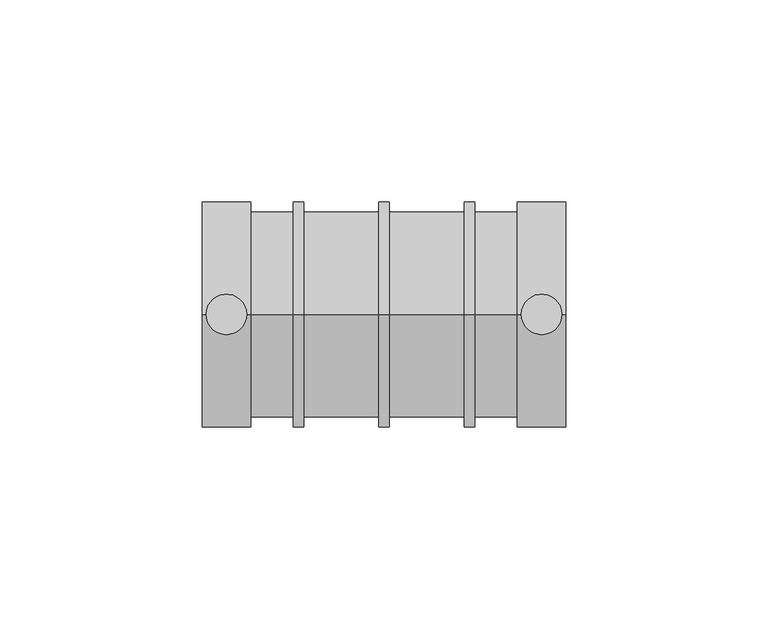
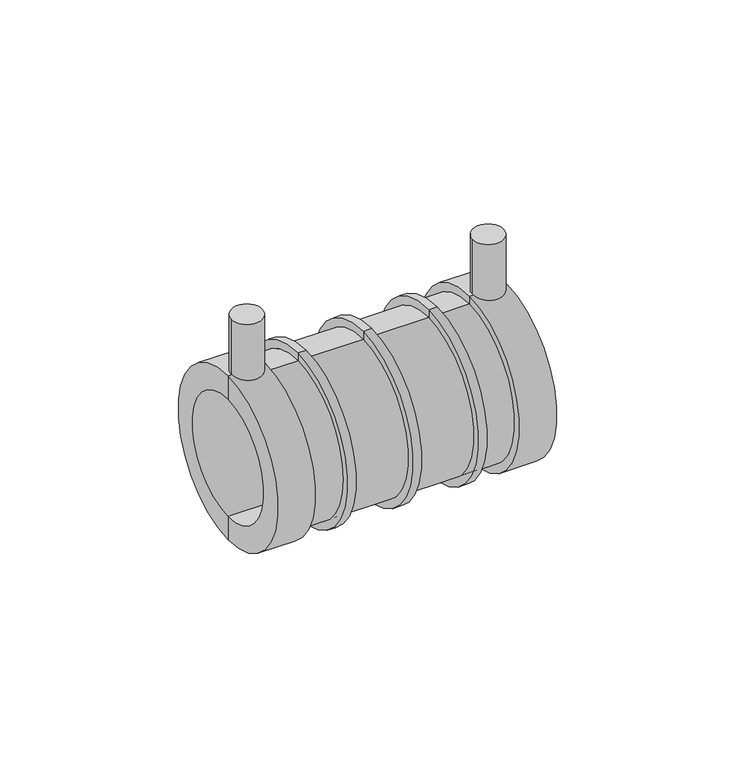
"""IFC4 building model written with IfcOpenShell, lengths in millimetres: pipe fitting geometry, Plumbing_Pipe-Fittings_Plasson_LightFit-Coupler_460104 : Plumbing_Pipe-Fittings_Plasson_LightFit-Coupler_460104."""

import ifcopenshell
import ifcopenshell.guid

model = None  # the IFC model being written
_history = None  # IfcOwnerHistory: only IFC2X3 demands one
_inside = {}  # id of a spatial element -> (the spatial element, [elements in it])
_under = {}  # id of a project, library or spatial element -> (it, [spatial elements below it])
_declared = {}  # id of a project -> (the project, [libraries it declares])
_typed = {}  # id of a type object -> (the type object, [elements of that type])
_made_of = {}  # id of a material, layer set ... -> (it, [elements and type objects made of it])


def new_model(schema):
    """Start an empty IFC model of exactly this schema.

    Asked for "IFC4X3", IfcOpenShell would pick the latest addendum, in which some entities
    have other attributes; the version numbers below select the first issue.
    IFC2X3 requires an IfcOwnerHistory on every rooted entity: one is made here for all.
    """
    global model, _history
    if schema == "IFC4X3":
        model = ifcopenshell.file(schema_version=(4, 3, 0, 0))
    else:
        model = ifcopenshell.file(schema=schema)
    _inside.clear()
    _under.clear()
    _declared.clear()
    _typed.clear()
    _made_of.clear()
    _history = None
    if model.schema == "IFC2X3":
        org = make("IfcOrganization", Name="unknown")
        user = make(
            "IfcPersonAndOrganization",
            ThePerson=make("IfcPerson", FamilyName="unknown"),
            TheOrganization=org,
        )
        app = make(
            "IfcApplication",
            ApplicationDeveloper=org,
            Version="unknown",
            ApplicationFullName="unknown",
            ApplicationIdentifier="unknown",
        )
        _history = make(
            "IfcOwnerHistory",
            OwningUser=user,
            OwningApplication=app,
            ChangeAction="ADDED",
            CreationDate=0,
        )
    return model


def make(cls, **values):
    """One entity of the class cls with the attributes given. An attribute that is None is left unset."""
    return model.create_entity(
        cls, **{name: value for name, value in values.items() if value is not None}
    )


def rooted(cls, **values):
    """An entity with a GlobalId (a new one), such as an element, a storey or a relation."""
    return make(cls, GlobalId=ifcopenshell.guid.new(), OwnerHistory=_history, **values)


def si_unit(unit_type, name, prefix=None):
    """IfcSIUnit, for example si_unit("LENGTHUNIT", "METRE", prefix="MILLI")."""
    return make("IfcSIUnit", UnitType=unit_type, Prefix=prefix, Name=name)


def assignment(units):
    """IfcUnitAssignment: the units of a project."""
    return None if units is None else make("IfcUnitAssignment", Units=units)


def point(xyz):
    """IfcCartesianPoint."""
    return None if xyz is None else make("IfcCartesianPoint", Coordinates=xyz)


def direction(xyz):
    """IfcDirection."""
    return None if xyz is None else make("IfcDirection", DirectionRatios=xyz)


def frame(location, z_axis=None, x_axis=None):
    """IfcAxis2Placement3D, a coordinate frame: its origin and axes. An axis left out is left unset."""
    return make(
        "IfcAxis2Placement3D",
        Location=point(location),
        Axis=direction(z_axis),
        RefDirection=direction(x_axis),
    )


def frame_2d(location, x_axis=None):
    """IfcAxis2Placement2D, a coordinate frame in the plane: its origin and x axis."""
    return make(
        "IfcAxis2Placement2D", Location=point(location), RefDirection=direction(x_axis)
    )


def origin():
    """The frame at (0, 0, 0) with its axes left unset."""
    return frame((0.0, 0.0, 0.0))


def place(relative_to, where):
    """IfcLocalPlacement: puts the frame where relative to a parent placement (None: the world)."""
    return make(
        "IfcLocalPlacement", PlacementRelTo=relative_to, RelativePlacement=where
    )


def context(
    kind, dimensions, precision=None, world=None, true_north=None, identifier=None
):
    """IfcGeometricRepresentationContext, for example the 3D "Model" context."""
    return make(
        "IfcGeometricRepresentationContext",
        ContextIdentifier=identifier,
        ContextType=kind,
        CoordinateSpaceDimension=dimensions,
        Precision=precision,
        WorldCoordinateSystem=world,
        TrueNorth=true_north,
    )


def project(units=None, contexts=None):
    """IfcProject with its units and contexts."""
    return rooted(
        "IfcProject",
        Name="project",
        RepresentationContexts=contexts,
        UnitsInContext=assignment(units),
    )


def spatial(cls, under=None, at=None, **own):
    """A site, building, storey or space (cls), placed at a placement, below another one or the project."""
    s = rooted(cls, ObjectPlacement=at, **own)
    if under is not None:
        _under.setdefault(under.id(), (under, []))[1].append(s)
    return s


def polyline(points):
    """IfcPolyline through the points."""
    return make("IfcPolyline", Points=[point(p) for p in points])


def circle_curve(where, radius):
    """IfcCircle in the frame where."""
    return make("IfcCircle", Position=where, Radius=radius)


def trimmed(basis, trim1, trim2, sense, master):
    """IfcTrimmedCurve: the piece of a basis curve between two trims."""
    return make(
        "IfcTrimmedCurve",
        BasisCurve=basis,
        Trim1=trim1,
        Trim2=trim2,
        SenseAgreement=sense,
        MasterRepresentation=master,
    )


def segment(curve, same_sense, transition):
    """IfcCompositeCurveSegment."""
    return make(
        "IfcCompositeCurveSegment",
        Transition=transition,
        SameSense=same_sense,
        ParentCurve=curve,
    )


def composite_curve(segments, self_intersect=None):
    """IfcCompositeCurve: segments joined end to end."""
    return make("IfcCompositeCurve", Segments=segments, SelfIntersect=self_intersect)


def outline(outer, holes=None, kind="AREA"):
    """IfcArbitraryClosedProfileDef: a profile drawn as a closed curve; with holes, ...WithVoids."""
    if holes is None:
        return make("IfcArbitraryClosedProfileDef", ProfileType=kind, OuterCurve=outer)
    return make(
        "IfcArbitraryProfileDefWithVoids",
        ProfileType=kind,
        OuterCurve=outer,
        InnerCurves=holes,
    )


def extrude(swept, where, along, depth):
    """IfcExtrudedAreaSolid: the profile swept, set in the frame where, extruded along a direction by depth."""
    return make(
        "IfcExtrudedAreaSolid",
        SweptArea=swept,
        Position=where,
        ExtrudedDirection=direction(along),
        Depth=depth,
    )


def shape(context_of_items, identifier, shape_type, items):
    """IfcShapeRepresentation: the items that make up one representation, for example the "Body"."""
    return make(
        "IfcShapeRepresentation",
        ContextOfItems=context_of_items,
        RepresentationIdentifier=identifier,
        RepresentationType=shape_type,
        Items=items,
    )


def source(mapping_origin, context_of_items, identifier, shape_type, items):
    """IfcRepresentationMap: a shape defined once, which mapped items show again and again."""
    return make(
        "IfcRepresentationMap",
        MappingOrigin=mapping_origin,
        MappedRepresentation=shape(context_of_items, identifier, shape_type, items),
    )


def transform(
    local_origin,
    x_axis=None,
    y_axis=None,
    z_axis=None,
    scale=None,
    scale2=None,
    scale3=None,
    uniform=True,
):
    """IfcCartesianTransformationOperator3D, or its non-uniform kind. x_axis, y_axis, z_axis: its Axis1, 2, 3."""
    if uniform:
        return make(
            "IfcCartesianTransformationOperator3D",
            Axis1=direction(x_axis),
            Axis2=direction(y_axis),
            LocalOrigin=point(local_origin),
            Scale=scale,
            Axis3=direction(z_axis),
        )
    return make(
        "IfcCartesianTransformationOperator3DnonUniform",
        Axis1=direction(x_axis),
        Axis2=direction(y_axis),
        LocalOrigin=point(local_origin),
        Scale=scale,
        Axis3=direction(z_axis),
        Scale2=scale2,
        Scale3=scale3,
    )


def mapped(mapping_source, mapping_target):
    """IfcMappedItem: shows the shape of a source again, moved by a transform."""
    return make(
        "IfcMappedItem", MappingSource=mapping_source, MappingTarget=mapping_target
    )


def made_of(thing, what):
    """Note that an element or type object is made of a material, layer set ...; save() writes the relation."""
    if what is not None:
        _made_of.setdefault(what.id(), (what, []))[1].append(thing)
    return thing


def element(
    cls,
    number,
    at=None,
    inside=None,
    cuts=None,
    type_object=None,
    material=None,
    context=None,
    identifier="Body",
    shape_type=None,
    held_by="IfcProductDefinitionShape",
    body=None,
    shapes=None,
    **own,
):
    """One element of the class cls, such as IfcWall. Its Tag is "e" and its number.

    at: its placement. inside: the storey or other place that contains it. cuts: it is an
    opening in that element (IfcRelVoidsElement). A single representation is given by context,
    identifier, shape_type and body (its items); several are given by shapes. held_by: the class
    of the entity that holds the representations. save() writes the other relations.
    """
    e = rooted(cls, Tag="e%d" % number, ObjectPlacement=at, **own)
    if body is not None:
        shapes = [shape(context, identifier, shape_type, body)]
    if shapes is not None:
        e.Representation = make(held_by, Representations=shapes)
    if inside is not None:
        _inside.setdefault(inside.id(), (inside, []))[1].append(e)
    if cuts is not None:
        rooted(
            "IfcRelVoidsElement", RelatingBuildingElement=cuts, RelatedOpeningElement=e
        )
    if type_object is not None:
        _typed.setdefault(type_object.id(), (type_object, []))[1].append(e)
    return made_of(e, material)


def aggregate(whole, parts):
    """IfcRelAggregates: a whole, such as a stair, and the parts it consists of."""
    return rooted("IfcRelAggregates", RelatingObject=whole, RelatedObjects=parts)


def save(model, path):
    """Write the relations noted so far, then the file.

    IfcRelAggregates (storeys below a building ...), IfcRelContainedInSpatialStructure (elements
    in a storey), IfcRelDefinesByType, IfcRelAssociatesMaterial and IfcRelDeclares: one each for
    every whole, place, type object, material and project.
    """
    for whole, parts in _under.values():
        aggregate(whole, parts)
    for where, things in _inside.values():
        rooted(
            "IfcRelContainedInSpatialStructure",
            RelatedElements=things,
            RelatingStructure=where,
        )
    for kind, things in _typed.values():
        rooted("IfcRelDefinesByType", RelatedObjects=things, RelatingType=kind)
    for what, things in _made_of.values():
        rooted("IfcRelAssociatesMaterial", RelatedObjects=things, RelatingMaterial=what)
    for by, libraries in _declared.values():
        rooted("IfcRelDeclares", RelatingContext=by, RelatedDefinitions=libraries)
    model.write(path)


def plane_surface(at):
    """IfcPlane: the flat surface through the origin of the frame at, square to its z axis."""
    return make("IfcPlane", Position=at)


def cylinder_surface(at, radius):
    """IfcCylindricalSurface: all points at the distance radius from the z axis of the frame at."""
    return make("IfcCylindricalSurface", Position=at, Radius=radius)


def revolved_surface(curve, axis_point, axis_direction):
    """IfcSurfaceOfRevolution: the curve turned about the line through axis_point along axis_direction."""
    return make(
        "IfcSurfaceOfRevolution",
        SweptCurve=make("IfcArbitraryOpenProfileDef", ProfileType="CURVE", Curve=curve),
        AxisPosition=make("IfcAxis1Placement", Location=point(axis_point), Axis=direction(axis_direction)),
    )


def advanced_brep(points, edges, surfaces, faces):
    """IfcAdvancedBrep: a solid bounded by faces that lie on surfaces and meet in shared edges.

    An edge is (start, end): straight between two places in points (the first is 0);
    or (start, end, curve); or (start, end, curve, False) where it runs against its curve.
    A face is (place in surfaces, loops), or (place, loops, False) where it looks against
    its surface's normal. A loop lists edges by number (the first is 1), with a minus sign
    where the edge is run from its end to its start. The first loop is the outer one.
    """
    corners = [point(p) for p in points]
    vertices = [make("IfcVertexPoint", VertexGeometry=c) for c in corners]
    made = []
    for start, end, *more in edges:
        made.append(
            make(
                "IfcEdgeCurve",
                EdgeStart=vertices[start],
                EdgeEnd=vertices[end],
                EdgeGeometry=more[0] if more else make("IfcPolyline", Points=[corners[start], corners[end]]),
                SameSense=more[1] if len(more) > 1 else True,
            )
        )
    hull = []
    for where, loops, *sense in faces:
        bounds = []
        for j, loop in enumerate(loops):
            ring = [make("IfcOrientedEdge", EdgeElement=made[abs(k) - 1], Orientation=k > 0) for k in loop]
            bounds.append(
                make(
                    "IfcFaceOuterBound" if j == 0 else "IfcFaceBound",
                    Bound=make("IfcEdgeLoop", EdgeList=ring),
                    Orientation=True,
                )
            )
        hull.append(make("IfcAdvancedFace", Bounds=bounds, FaceSurface=surfaces[where], SameSense=sense[0] if sense else True))
    return make("IfcAdvancedBrep", Outer=make("IfcClosedShell", CfsFaces=hull))


def pipe_fitting_f3134fd4(model_context):
    return source(origin(), model_context, "Body", "SolidModel", [
        advanced_brep(
        [(-2.0, 0.0, -20.0), (-2.0, 0.0, 20.0), (-45.0, 0.0, 20.0), (-45.0, 0.0, -20.0), (-2.0, 0.0, -17.0), (-2.0, 0.0, 17.0), (2.0, 0.0, -17.0), (2.0, 0.0, 17.0), (2.0, 0.0, -20.0), (2.0, 0.0, 20.0), (45.0, 0.0, -20.0), (45.0, 0.0, 20.0), (45.0, 0.0, -28.0), (45.0, 0.0, 28.0), (33.0, 0.0, -28.0), (33.0, 0.0, 28.0), (33.0, 0.0, -25.3333333), (33.0, 0.0, 25.3333333), (22.5, 0.0, -28.0), (22.5, 0.0, 28.0), (22.5, 0.0, 25.3333333), (22.5, 0.0, -25.3333333), (-33.0, 0.0, -25.3333333), (-33.0, 0.0, 25.3333333), (-22.5, 0.0, 25.3333333), (-22.5, 0.0, -25.3333333), (-33.0, 0.0, -28.0), (-33.0, 0.0, 28.0), (-45.0, 0.0, -28.0), (-45.0, 0.0, 28.0), (19.8333333, 0.0, -28.0), (19.8333333, 0.0, 28.0), (19.8333333, 0.0, -25.3333333), (19.8333333, 0.0, 25.3333333), (1.3333333, 0.0, -25.3333333), (1.3333333, 0.0, 25.3333333), (1.3333333, 0.0, -28.0), (1.3333333, 0.0, 28.0), (-1.3333333, 0.0, -28.0), (-1.3333333, 0.0, 28.0), (-1.3333333, 0.0, -25.3333333), (-1.3333333, 0.0, 25.3333333), (-19.8333333, 0.0, -25.3333333), (-19.8333333, 0.0, 25.3333333), (-19.8333333, 0.0, -28.0), (-19.8333333, 0.0, 28.0), (-22.5, 0.0, -28.0), (-22.5, 0.0, 28.0)],
        [
            (0, 1, circle_curve(frame((-2.0, 0.0, 0.0), z_axis=(1.0, 0.0, 0.0), x_axis=(0.0, 0.0, 1.0)), 20.0)),
            (1, 2),
            (2, 3, circle_curve(frame((-45.0, 0.0, 0.0), z_axis=(-1.0, 0.0, 0.0), x_axis=(0.0, 0.0, 1.0)), 20.0)),
            (3, 0),
            (1, 0, circle_curve(frame((-2.0, 0.0, 0.0), z_axis=(1.0, 0.0, 0.0), x_axis=(0.0, 0.0, 1.0)), 20.0)),
            (3, 2, circle_curve(frame((-45.0, 0.0, 0.0), z_axis=(-1.0, 0.0, 0.0), x_axis=(0.0, 0.0, 1.0)), 20.0)),
            (4, 5, circle_curve(frame((-2.0, 0.0, 0.0), z_axis=(1.0, 0.0, 0.0), x_axis=(0.0, 0.0, 1.0)), 17.0)),
            (5, 1),
            (0, 4),
            (5, 4, circle_curve(frame((-2.0, 0.0, 0.0), z_axis=(1.0, 0.0, 0.0), x_axis=(0.0, 0.0, 1.0)), 17.0)),
            (6, 7, circle_curve(frame((2.0, 0.0, 0.0), z_axis=(1.0, 0.0, 0.0), x_axis=(0.0, 0.0, 1.0)), 17.0)),
            (7, 5),
            (4, 6),
            (7, 6, circle_curve(frame((2.0, 0.0, 0.0), z_axis=(1.0, 0.0, 0.0), x_axis=(0.0, 0.0, 1.0)), 17.0)),
            (8, 9, circle_curve(frame((2.0, 0.0, 0.0), z_axis=(1.0, 0.0, 0.0), x_axis=(0.0, 0.0, 1.0)), 20.0)),
            (9, 7),
            (6, 8),
            (9, 8, circle_curve(frame((2.0, 0.0, 0.0), z_axis=(1.0, 0.0, 0.0), x_axis=(0.0, 0.0, 1.0)), 20.0)),
            (10, 11, circle_curve(frame((45.0, 0.0, 0.0), z_axis=(1.0, 0.0, 0.0), x_axis=(0.0, 0.0, 1.0)), 20.0)),
            (11, 9),
            (8, 10),
            (11, 10, circle_curve(frame((45.0, 0.0, 0.0), z_axis=(1.0, 0.0, 0.0), x_axis=(0.0, 0.0, 1.0)), 20.0)),
            (12, 13, circle_curve(frame((45.0, 0.0, 0.0), z_axis=(1.0, 0.0, 0.0), x_axis=(0.0, 0.0, 1.0)), 28.0)),
            (13, 11),
            (10, 12),
            (13, 12, circle_curve(frame((45.0, 0.0, 0.0), z_axis=(1.0, 0.0, 0.0), x_axis=(0.0, 0.0, 1.0)), 28.0)),
            (14, 15, circle_curve(frame((33.0, 0.0, 0.0), z_axis=(1.0, 0.0, 0.0), x_axis=(0.0, 0.0, 1.0)), 28.0)),
            (15, 13),
            (12, 14),
            (15, 14, circle_curve(frame((33.0, 0.0, 0.0), z_axis=(1.0, 0.0, 0.0), x_axis=(0.0, 0.0, 1.0)), 28.0)),
            (16, 17, circle_curve(frame((33.0, 0.0, 0.0), z_axis=(1.0, 0.0, 0.0), x_axis=(0.0, 0.0, 1.0)), 25.3333333)),
            (17, 15),
            (14, 16),
            (17, 16, circle_curve(frame((33.0, 0.0, 0.0), z_axis=(1.0, 0.0, 0.0), x_axis=(0.0, 0.0, 1.0)), 25.3333333)),
            (18, 19, circle_curve(frame((22.5, 0.0, 0.0), z_axis=(1.0, 0.0, 0.0), x_axis=(0.0, 0.0, 1.0)), 28.0)),
            (19, 20),
            (20, 21, circle_curve(frame((22.5, 0.0, 0.0), z_axis=(-1.0, 0.0, 0.0), x_axis=(0.0, 0.0, 1.0)), 25.3333333)),
            (21, 18),
            (19, 18, circle_curve(frame((22.5, 0.0, 0.0), z_axis=(1.0, 0.0, 0.0), x_axis=(0.0, 0.0, 1.0)), 28.0)),
            (21, 20, circle_curve(frame((22.5, 0.0, 0.0), z_axis=(-1.0, 0.0, 0.0), x_axis=(0.0, 0.0, 1.0)), 25.3333333)),
            (22, 23, circle_curve(frame((-33.0, 0.0, 0.0), z_axis=(1.0, 0.0, 0.0), x_axis=(0.0, 0.0, 1.0)), 25.3333333)),
            (23, 24),
            (24, 25, circle_curve(frame((-22.5, 0.0, 0.0), z_axis=(-1.0, 0.0, 0.0), x_axis=(0.0, 0.0, 1.0)), 25.3333333)),
            (25, 22),
            (23, 22, circle_curve(frame((-33.0, 0.0, 0.0), z_axis=(1.0, 0.0, 0.0), x_axis=(0.0, 0.0, 1.0)), 25.3333333)),
            (25, 24, circle_curve(frame((-22.5, 0.0, 0.0), z_axis=(-1.0, 0.0, 0.0), x_axis=(0.0, 0.0, 1.0)), 25.3333333)),
            (26, 27, circle_curve(frame((-33.0, 0.0, 0.0), z_axis=(1.0, 0.0, 0.0), x_axis=(0.0, 0.0, 1.0)), 28.0)),
            (27, 23),
            (22, 26),
            (27, 26, circle_curve(frame((-33.0, 0.0, 0.0), z_axis=(1.0, 0.0, 0.0), x_axis=(0.0, 0.0, 1.0)), 28.0)),
            (28, 29, circle_curve(frame((-45.0, 0.0, 0.0), z_axis=(1.0, 0.0, 0.0), x_axis=(0.0, 0.0, 1.0)), 28.0)),
            (29, 27),
            (26, 28),
            (29, 28, circle_curve(frame((-45.0, 0.0, 0.0), z_axis=(1.0, 0.0, 0.0), x_axis=(0.0, 0.0, 1.0)), 28.0)),
            (2, 29),
            (28, 3),
            (20, 17),
            (16, 21),
            (30, 31, circle_curve(frame((19.8333333, 0.0, 0.0), z_axis=(1.0, 0.0, 0.0), x_axis=(0.0, 0.0, 1.0)), 28.0)),
            (31, 19),
            (18, 30),
            (31, 30, circle_curve(frame((19.8333333, 0.0, 0.0), z_axis=(1.0, 0.0, 0.0), x_axis=(0.0, 0.0, 1.0)), 28.0)),
            (32, 33, circle_curve(frame((19.8333333, 0.0, 0.0), z_axis=(1.0, 0.0, 0.0), x_axis=(0.0, 0.0, 1.0)), 25.3333333)),
            (33, 31),
            (30, 32),
            (33, 32, circle_curve(frame((19.8333333, 0.0, 0.0), z_axis=(1.0, 0.0, 0.0), x_axis=(0.0, 0.0, 1.0)), 25.3333333)),
            (34, 35, circle_curve(frame((1.3333333, 0.0, 0.0), z_axis=(1.0, 0.0, 0.0), x_axis=(0.0, 0.0, 1.0)), 25.3333333)),
            (35, 33),
            (32, 34),
            (35, 34, circle_curve(frame((1.3333333, 0.0, 0.0), z_axis=(1.0, 0.0, 0.0), x_axis=(0.0, 0.0, 1.0)), 25.3333333)),
            (36, 37, circle_curve(frame((1.3333333, 0.0, 0.0), z_axis=(1.0, 0.0, 0.0), x_axis=(0.0, 0.0, 1.0)), 28.0)),
            (37, 35),
            (34, 36),
            (37, 36, circle_curve(frame((1.3333333, 0.0, 0.0), z_axis=(1.0, 0.0, 0.0), x_axis=(0.0, 0.0, 1.0)), 28.0)),
            (38, 39, circle_curve(frame((-1.3333333, 0.0, 0.0), z_axis=(1.0, 0.0, 0.0), x_axis=(0.0, 0.0, 1.0)), 28.0)),
            (39, 37),
            (36, 38),
            (39, 38, circle_curve(frame((-1.3333333, 0.0, 0.0), z_axis=(1.0, 0.0, 0.0), x_axis=(0.0, 0.0, 1.0)), 28.0)),
            (40, 41, circle_curve(frame((-1.3333333, 0.0, 0.0), z_axis=(1.0, 0.0, 0.0), x_axis=(0.0, 0.0, 1.0)), 25.3333333)),
            (41, 39),
            (38, 40),
            (41, 40, circle_curve(frame((-1.3333333, 0.0, 0.0), z_axis=(1.0, 0.0, 0.0), x_axis=(0.0, 0.0, 1.0)), 25.3333333)),
            (42, 43, circle_curve(frame((-19.8333333, 0.0, 0.0), z_axis=(1.0, 0.0, 0.0), x_axis=(0.0, 0.0, 1.0)), 25.3333333)),
            (43, 41),
            (40, 42),
            (43, 42, circle_curve(frame((-19.8333333, 0.0, 0.0), z_axis=(1.0, 0.0, 0.0), x_axis=(0.0, 0.0, 1.0)), 25.3333333)),
            (44, 45, circle_curve(frame((-19.8333333, 0.0, 0.0), z_axis=(1.0, 0.0, 0.0), x_axis=(0.0, 0.0, 1.0)), 28.0)),
            (45, 43),
            (42, 44),
            (45, 44, circle_curve(frame((-19.8333333, 0.0, 0.0), z_axis=(1.0, 0.0, 0.0), x_axis=(0.0, 0.0, 1.0)), 28.0)),
            (46, 47, circle_curve(frame((-22.5, 0.0, 0.0), z_axis=(1.0, 0.0, 0.0), x_axis=(0.0, 0.0, 1.0)), 28.0)),
            (47, 45),
            (44, 46),
            (47, 46, circle_curve(frame((-22.5, 0.0, 0.0), z_axis=(1.0, 0.0, 0.0), x_axis=(0.0, 0.0, 1.0)), 28.0)),
            (24, 47),
            (46, 25),
        ],
        [
            revolved_surface(polyline([(-45.0, 0.0, 20.0), (-2.0, 0.0, 20.0)]), (-45.0, 0.0, 0.0), (-1.0, 0.0, 0.0)),
            plane_surface(frame((-2.0, 0.0, 0.0), z_axis=(-1.0, 0.0, 0.0), x_axis=(0.0, 0.0, 1.0))),
            revolved_surface(polyline([(-2.0, 0.0, 17.0), (2.0, 0.0, 17.0)]), (-45.0, 0.0, 0.0), (-1.0, 0.0, 0.0)),
            plane_surface(frame((2.0, 0.0, 0.0), z_axis=(1.0, 0.0, 0.0), x_axis=(0.0, 0.0, 1.0))),
            revolved_surface(polyline([(2.0, 0.0, 20.0), (45.0, 0.0, 20.0)]), (-45.0, 0.0, 0.0), (-1.0, 0.0, 0.0)),
            plane_surface(frame((45.0, 0.0, 0.0), z_axis=(1.0, 0.0, 0.0), x_axis=(0.0, 0.0, 1.0))),
            cylinder_surface(frame((-45.0, 0.0, 0.0), z_axis=(-1.0, 0.0, 0.0), x_axis=(0.0, 0.0, 1.0)), 28.0),
            plane_surface(frame((33.0, 0.0, 0.0), z_axis=(-1.0, 0.0, 0.0), x_axis=(0.0, 0.0, 1.0))),
            plane_surface(frame((22.5, 0.0, 0.0), z_axis=(1.0, 0.0, 0.0), x_axis=(0.0, 0.0, 1.0))),
            cylinder_surface(frame((-45.0, 0.0, 0.0), z_axis=(-1.0, 0.0, 0.0), x_axis=(0.0, 0.0, 1.0)), 25.3333333),
            plane_surface(frame((-33.0, 0.0, 0.0), z_axis=(1.0, 0.0, 0.0), x_axis=(0.0, 0.0, 1.0))),
            plane_surface(frame((-45.0, 0.0, 0.0), z_axis=(-1.0, 0.0, 0.0), x_axis=(0.0, 0.0, 1.0))),
            plane_surface(frame((19.8333333, 0.0, 0.0), z_axis=(-1.0, 0.0, 0.0), x_axis=(0.0, 0.0, 1.0))),
            plane_surface(frame((1.3333333, 0.0, 0.0), z_axis=(1.0, 0.0, 0.0), x_axis=(0.0, 0.0, 1.0))),
            plane_surface(frame((-1.3333333, 0.0, 0.0), z_axis=(-1.0, 0.0, 0.0), x_axis=(0.0, 0.0, 1.0))),
            plane_surface(frame((-19.8333333, 0.0, 0.0), z_axis=(1.0, 0.0, 0.0), x_axis=(0.0, 0.0, 1.0))),
            plane_surface(frame((-22.5, 0.0, 0.0), z_axis=(-1.0, 0.0, 0.0), x_axis=(0.0, 0.0, 1.0))),
        ],
        [
            (0, [[1, 2, 3, 4]]),
            (0, [[5, -4, 6, -2]]),
            (1, [[7, 8, -1, 9]]),
            (1, [[10, -9, -5, -8]]),
            (2, [[11, 12, -7, 13]]),
            (2, [[14, -13, -10, -12]]),
            (3, [[15, 16, -11, 17]]),
            (3, [[18, -17, -14, -16]]),
            (4, [[19, 20, -15, 21]]),
            (4, [[22, -21, -18, -20]]),
            (5, [[23, 24, -19, 25]]),
            (5, [[26, -25, -22, -24]]),
            (6, [[27, 28, -23, 29]]),
            (6, [[30, -29, -26, -28]]),
            (7, [[31, 32, -27, 33]]),
            (7, [[34, -33, -30, -32]]),
            (8, [[35, 36, 37, 38]]),
            (8, [[39, -38, 40, -36]]),
            (9, [[41, 42, 43, 44]]),
            (9, [[45, -44, 46, -42]]),
            (10, [[47, 48, -41, 49]]),
            (10, [[50, -49, -45, -48]]),
            (6, [[51, 52, -47, 53]]),
            (6, [[54, -53, -50, -52]]),
            (11, [[-3, 55, -51, 56]]),
            (11, [[-6, -56, -54, -55]]),
            (9, [[-37, 57, -31, 58]]),
            (9, [[-40, -58, -34, -57]]),
            (6, [[59, 60, -35, 61]]),
            (6, [[62, -61, -39, -60]]),
            (12, [[63, 64, -59, 65]]),
            (12, [[66, -65, -62, -64]]),
            (9, [[67, 68, -63, 69]]),
            (9, [[70, -69, -66, -68]]),
            (13, [[71, 72, -67, 73]]),
            (13, [[74, -73, -70, -72]]),
            (6, [[75, 76, -71, 77]]),
            (6, [[78, -77, -74, -76]]),
            (14, [[79, 80, -75, 81]]),
            (14, [[82, -81, -78, -80]]),
            (9, [[83, 84, -79, 85]]),
            (9, [[86, -85, -82, -84]]),
            (15, [[87, 88, -83, 89]]),
            (15, [[90, -89, -86, -88]]),
            (6, [[91, 92, -87, 93]]),
            (6, [[94, -93, -90, -92]]),
            (16, [[-43, 95, -91, 96]]),
            (16, [[-46, -96, -94, -95]]),
        ],
    ),
        extrude(outline(composite_curve([segment(trimmed(circle_curve(frame_2d((-39.0, 0.0)), 5.0), [point((-44.0, 0.0))], [point((-34.0, 0.0))], False, "CARTESIAN"), True, "CONTINUOUS"), segment(trimmed(circle_curve(frame_2d((-39.0, 0.0)), 5.0), [point((-34.0, 0.0))], [point((-44.0, 0.0))], False, "CARTESIAN"), True, "CONTINUOUS")], self_intersect=False)), frame((0.0, 0.0, 24.0), z_axis=(0.0, 0.0, 1.0), x_axis=(1.0, 0.0, 0.0)), (0.0, 0.0, 1.0), 23.0),
        extrude(outline(composite_curve([segment(trimmed(circle_curve(frame_2d((39.0, 0.0)), 5.0), [point((34.0, 0.0))], [point((44.0, 0.0))], False, "CARTESIAN"), True, "CONTINUOUS"), segment(trimmed(circle_curve(frame_2d((39.0, 0.0)), 5.0), [point((44.0, 0.0))], [point((34.0, 0.0))], False, "CARTESIAN"), True, "CONTINUOUS")], self_intersect=False)), frame((0.0, 0.0, 24.0), z_axis=(0.0, 0.0, 1.0), x_axis=(1.0, 0.0, 0.0)), (0.0, 0.0, 1.0), 23.0),
    ])


if __name__ == "__main__":
    model = new_model("IFC4")
    model_context = context("Model", 3, world=origin())
    ifc_project = project(units=[si_unit("LENGTHUNIT", "METRE", prefix="MILLI")], contexts=[model_context])
    site = spatial("IfcSite", under=ifc_project)
    building = spatial("IfcBuilding", under=site)
    placement = place(None, origin())
    pipe_fitting_shape = pipe_fitting_f3134fd4(model_context)
    element("IfcPipeFitting", 1, ObjectType="Plumbing_Pipe-Fittings_Plasson_LightFit-Coupler_460104 : Plumbing_Pipe-Fittings_Plasson_LightFit-Coupler_460104", at=placement, inside=building, context=model_context, shape_type="MappedRepresentation", body=[
        mapped(pipe_fitting_shape, transform((0.0, 0.0, 0.0), x_axis=(1.0, 0.0, 0.0), y_axis=(0.0, 1.0, 0.0), z_axis=(0.0, 0.0, 1.0))),
    ])
    save(model, "model.ifc")
